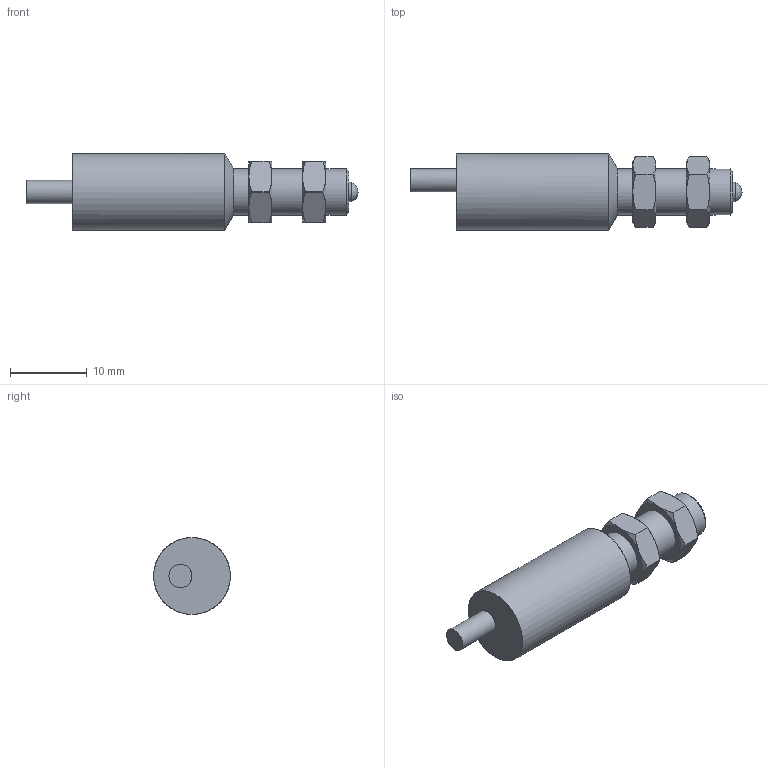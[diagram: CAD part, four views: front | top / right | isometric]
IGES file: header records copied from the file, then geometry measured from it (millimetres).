
Start section: C
Global section: file name: MY COM_E.igs; native system:  By UGS Corp.; preprocessor: XPlus GENERIC/IGES 3.0; author: Author; organization: Title; date: 20150326.094538; units: millimetre
Bounding box: 43.2 x 10 x 10 mm (x, y, z)
Surface area: 1517.6 mm2 (no closed solid volume)
Topology: 0 solids, 0 shells, 56 faces, 255 edges, 254 vertices
Faces by surface type: bspline 56
